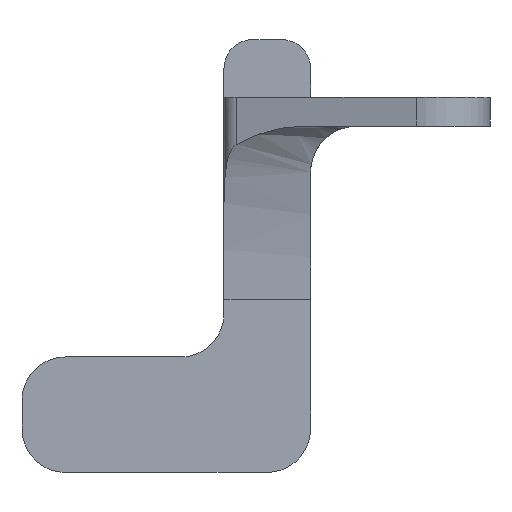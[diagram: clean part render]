
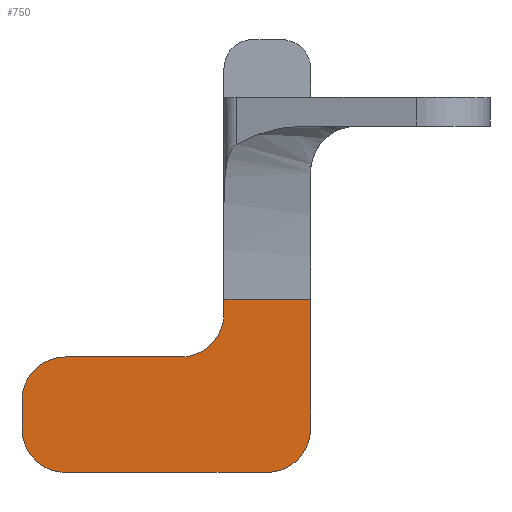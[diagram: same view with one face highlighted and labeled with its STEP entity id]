
A CAD part, front view. The second image highlights one B-rep face of the part: STEP entity #750.
In plain terms, the highlighted planar face has unit normal (0, -1, 0).
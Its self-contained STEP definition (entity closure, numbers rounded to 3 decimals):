
#13 = DIRECTION ( 'NONE',  ( 0., -1., 0. ) ) ;
#28 = LINE ( 'NONE', #216, #1054 ) ;
#47 = AXIS2_PLACEMENT_3D ( 'NONE', #251, #64, #164 ) ;
#51 = CARTESIAN_POINT ( 'NONE',  ( -28.61, 3.5, -60. ) ) ;
#52 = PLANE ( 'NONE',  #245 ) ;
#61 = ORIENTED_EDGE ( 'NONE', *, *, #505, .F. ) ;
#64 = DIRECTION ( 'NONE',  ( 0., -1., 0. ) ) ;
#70 = EDGE_CURVE ( 'NONE', #812, #182, #1139, .T. ) ;
#73 = VERTEX_POINT ( 'NONE', #791 ) ;
#92 = DIRECTION ( 'NONE',  ( 0., 1., 0. ) ) ;
#93 = B_SPLINE_CURVE_WITH_KNOTS ( 'NONE', 3,
 ( #421, #413, #122, #580 ),
 .UNSPECIFIED., .F., .F.,
 ( 4, 4 ),
 ( 0., 1. ),
 .UNSPECIFIED. ) ;
#103 = DIRECTION ( 'NONE',  ( 0., 0., -1. ) ) ;
#118 = CARTESIAN_POINT ( 'NONE',  ( -63.61, 3.5, -60. ) ) ;
#122 = CARTESIAN_POINT ( 'NONE',  ( -31.11, 3.5, -30. ) ) ;
#145 = CARTESIAN_POINT ( 'NONE',  ( -21.11, 3.5, -60. ) ) ;
#164 = DIRECTION ( 'NONE',  ( 0., 0., 1. ) ) ;
#171 = EDGE_CURVE ( 'NONE', #974, #73, #863, .T. ) ;
#182 = VERTEX_POINT ( 'NONE', #734 ) ;
#190 = CARTESIAN_POINT ( 'NONE',  ( -63.61, 3.5, -47.5 ) ) ;
#199 = VERTEX_POINT ( 'NONE', #831 ) ;
#201 = CARTESIAN_POINT ( 'NONE',  ( -63.61, 3.5, -52.5 ) ) ;
#216 = CARTESIAN_POINT ( 'NONE',  ( -71.11, 3.5, -40. ) ) ;
#224 = FACE_OUTER_BOUND ( 'NONE', #248, .T. ) ;
#245 = AXIS2_PLACEMENT_3D ( 'NONE', #819, #1129, #638 ) ;
#247 = VECTOR ( 'NONE', #1149, 1000. ) ;
#248 = EDGE_LOOP ( 'NONE', ( #1268, #1085, #871, #617, #1284, #1057, #61, #683, #852, #674 ) ) ;
#251 = CARTESIAN_POINT ( 'NONE',  ( -28.61, 3.5, -52.5 ) ) ;
#257 = LINE ( 'NONE', #1038, #247 ) ;
#266 = VECTOR ( 'NONE', #1032, 1000. ) ;
#293 = CARTESIAN_POINT ( 'NONE',  ( -21.11, 3.5, 15. ) ) ;
#301 = VECTOR ( 'NONE', #414, 1000. ) ;
#345 = CIRCLE ( 'NONE', #47, 7.5 ) ;
#347 = VERTEX_POINT ( 'NONE', #368 ) ;
#349 = CARTESIAN_POINT ( 'NONE',  ( -63.61, 3.5, -40. ) ) ;
#356 = CARTESIAN_POINT ( 'NONE',  ( -36.11, 3.5, -32.5 ) ) ;
#368 = CARTESIAN_POINT ( 'NONE',  ( -21.11, 3.5, -52.5 ) ) ;
#385 = DIRECTION ( 'NONE',  ( 1., 0., 0. ) ) ;
#413 = CARTESIAN_POINT ( 'NONE',  ( -26.11, 3.5, -30. ) ) ;
#414 = DIRECTION ( 'NONE',  ( 0., 0., 1. ) ) ;
#421 = CARTESIAN_POINT ( 'NONE',  ( -21.11, 3.5, -30. ) ) ;
#434 = AXIS2_PLACEMENT_3D ( 'NONE', #560, #92, #754 ) ;
#486 = LINE ( 'NONE', #293, #993 ) ;
#496 = AXIS2_PLACEMENT_3D ( 'NONE', #190, #13, #575 ) ;
#505 = EDGE_CURVE ( 'NONE', #199, #182, #257, .T. ) ;
#513 = EDGE_CURVE ( 'NONE', #537, #1080, #637, .T. ) ;
#537 = VERTEX_POINT ( 'NONE', #51 ) ;
#560 = CARTESIAN_POINT ( 'NONE',  ( -43.61, 3.5, -32.5 ) ) ;
#575 = DIRECTION ( 'NONE',  ( 0., 0., 1. ) ) ;
#580 = CARTESIAN_POINT ( 'NONE',  ( -36.11, 3.5, -30. ) ) ;
#617 = ORIENTED_EDGE ( 'NONE', *, *, #171, .T. ) ;
#637 = LINE ( 'NONE', #145, #266 ) ;
#638 = DIRECTION ( 'NONE',  ( 0., 0., 1. ) ) ;
#639 = CARTESIAN_POINT ( 'NONE',  ( -21.11, 3.5, -30. ) ) ;
#674 = ORIENTED_EDGE ( 'NONE', *, *, #1111, .T. ) ;
#675 = CARTESIAN_POINT ( 'NONE',  ( -36.11, 3.5, -40. ) ) ;
#683 = ORIENTED_EDGE ( 'NONE', *, *, #1223, .T. ) ;
#734 = CARTESIAN_POINT ( 'NONE',  ( -71.11, 3.5, -47.5 ) ) ;
#750 = ADVANCED_FACE ( 'NONE', ( #224 ), #52, .F. ) ;
#754 = DIRECTION ( 'NONE',  ( 0., 0., 1. ) ) ;
#757 = VERTEX_POINT ( 'NONE', #940 ) ;
#782 = DIRECTION ( 'NONE',  ( 0., -1., 0. ) ) ;
#791 = CARTESIAN_POINT ( 'NONE',  ( -43.61, 3.5, -40. ) ) ;
#806 = LINE ( 'NONE', #675, #301 ) ;
#812 = VERTEX_POINT ( 'NONE', #349 ) ;
#819 = CARTESIAN_POINT ( 'NONE',  ( 0., 3.5, 0. ) ) ;
#831 = CARTESIAN_POINT ( 'NONE',  ( -71.11, 3.5, -52.5 ) ) ;
#852 = ORIENTED_EDGE ( 'NONE', *, *, #513, .F. ) ;
#863 = CIRCLE ( 'NONE', #434, 7.5 ) ;
#871 = ORIENTED_EDGE ( 'NONE', *, *, #1034, .F. ) ;
#940 = CARTESIAN_POINT ( 'NONE',  ( -36.11, 3.5, -30. ) ) ;
#974 = VERTEX_POINT ( 'NONE', #356 ) ;
#984 = DIRECTION ( 'NONE',  ( 0., 0., 1. ) ) ;
#993 = VECTOR ( 'NONE', #103, 1000. ) ;
#1007 = EDGE_CURVE ( 'NONE', #1140, #347, #486, .T. ) ;
#1025 = EDGE_CURVE ( 'NONE', #812, #73, #28, .T. ) ;
#1032 = DIRECTION ( 'NONE',  ( -1., 0., 0. ) ) ;
#1034 = EDGE_CURVE ( 'NONE', #974, #757, #806, .T. ) ;
#1038 = CARTESIAN_POINT ( 'NONE',  ( -71.11, 3.5, -60. ) ) ;
#1054 = VECTOR ( 'NONE', #385, 1000. ) ;
#1057 = ORIENTED_EDGE ( 'NONE', *, *, #70, .T. ) ;
#1080 = VERTEX_POINT ( 'NONE', #118 ) ;
#1085 = ORIENTED_EDGE ( 'NONE', *, *, #1215, .T. ) ;
#1111 = EDGE_CURVE ( 'NONE', #537, #347, #345, .T. ) ;
#1129 = DIRECTION ( 'NONE',  ( 0., 1., 0. ) ) ;
#1139 = CIRCLE ( 'NONE', #496, 7.5 ) ;
#1140 = VERTEX_POINT ( 'NONE', #639 ) ;
#1149 = DIRECTION ( 'NONE',  ( 0., 0., 1. ) ) ;
#1160 = CIRCLE ( 'NONE', #1234, 7.5 ) ;
#1215 = EDGE_CURVE ( 'NONE', #1140, #757, #93, .T. ) ;
#1223 = EDGE_CURVE ( 'NONE', #199, #1080, #1160, .T. ) ;
#1234 = AXIS2_PLACEMENT_3D ( 'NONE', #201, #782, #984 ) ;
#1268 = ORIENTED_EDGE ( 'NONE', *, *, #1007, .F. ) ;
#1284 = ORIENTED_EDGE ( 'NONE', *, *, #1025, .F. ) ;
